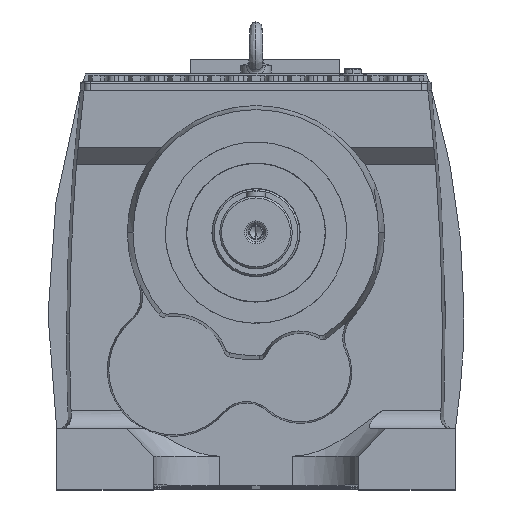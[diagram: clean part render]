
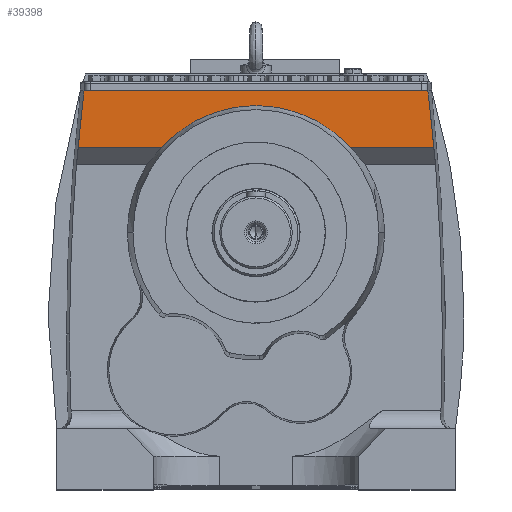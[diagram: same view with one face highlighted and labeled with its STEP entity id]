
A CAD part, top view. The second image highlights one B-rep face of the part: STEP entity #39398.
In plain terms, the highlighted planar face has unit normal (0, 0, 1).
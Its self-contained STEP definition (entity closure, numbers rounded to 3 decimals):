
#4464 = EDGE_LOOP ( 'NONE', ( #69432, #69428, #69461, #69435, #53418, #69591 ) ) ;
#17180 = CIRCLE ( 'NONE', #31205, 210.55 ) ;
#23124 = DIRECTION ( 'NONE',  ( 0., 0., -1. ) ) ;
#23146 = CARTESIAN_POINT ( 'NONE',  ( 0., 0., 258.5 ) ) ;
#23147 = DIRECTION ( 'NONE',  ( -1., 0., 0. ) ) ;
#26803 = VERTEX_POINT ( 'NONE', #80130 ) ;
#26856 = VERTEX_POINT ( 'NONE', #80320 ) ;
#28121 = EDGE_CURVE ( 'NONE', #26803, #48719, #79328, .T. ) ;
#28138 = EDGE_CURVE ( 'NONE', #48539, #26856, #59554, .T. ) ;
#28387 = EDGE_CURVE ( 'NONE', #26803, #50025, #60071, .T. ) ;
#28417 = EDGE_CURVE ( 'NONE', #26856, #49053, #60154, .T. ) ;
#28429 = EDGE_CURVE ( 'NONE', #49053, #50025, #60092, .T. ) ;
#31205 = AXIS2_PLACEMENT_3D ( 'NONE', #23146, #23124, #23147 ) ;
#39398 = ADVANCED_FACE ( 'NONE', ( #59358 ), #60369, .T. ) ;
#48539 = VERTEX_POINT ( 'NONE', #83711 ) ;
#48719 = VERTEX_POINT ( 'NONE', #83733 ) ;
#49053 = VERTEX_POINT ( 'NONE', #83798 ) ;
#50025 = VERTEX_POINT ( 'NONE', #90143 ) ;
#53418 = ORIENTED_EDGE ( 'NONE', *, *, #28121, .T. ) ;
#56516 = CARTESIAN_POINT ( 'NONE',  ( -380.272, 235., 258.5 ) ) ;
#56523 = DIRECTION ( 'NONE',  ( -1., 0., 0. ) ) ;
#56875 = CARTESIAN_POINT ( 'NONE',  ( -3186.324, 140.733, 258.5 ) ) ;
#56880 = DIRECTION ( 'NONE',  ( 1., 0., 0. ) ) ;
#56899 = CARTESIAN_POINT ( 'NONE',  ( -3186.324, 140.733, 258.5 ) ) ;
#56913 = DIRECTION ( 'NONE',  ( 1., 0., 0. ) ) ;
#57494 = DIRECTION ( 'NONE',  ( 0., 0., -1. ) ) ;
#57504 = CARTESIAN_POINT ( 'NONE',  ( 3186.324, -167.302, 258.5 ) ) ;
#57523 = DIRECTION ( 'NONE',  ( -1., 0., 0. ) ) ;
#57581 = DIRECTION ( 'NONE',  ( -1., 0., 0. ) ) ;
#57586 = DIRECTION ( 'NONE',  ( 0., 0., 1. ) ) ;
#57603 = CARTESIAN_POINT ( 'NONE',  ( -3186.324, -167.302, 258.5 ) ) ;
#59358 = FACE_OUTER_BOUND ( 'NONE', #4464, .T. ) ;
#59554 = LINE ( 'NONE', #56899, #59577 ) ;
#59577 = VECTOR ( 'NONE', #56913, 1000. ) ;
#60071 = CIRCLE ( 'NONE', #82968, 3494.174 ) ;
#60092 = LINE ( 'NONE', #56516, #60121 ) ;
#60121 = VECTOR ( 'NONE', #56523, 1000. ) ;
#60154 = CIRCLE ( 'NONE', #82971, 3494.174 ) ;
#60288 = DIRECTION ( 'NONE',  ( 1., 0., 0. ) ) ;
#60334 = DIRECTION ( 'NONE',  ( 0., 0., 1. ) ) ;
#60361 = CARTESIAN_POINT ( 'NONE',  ( -3186.324, -167.302, 258.5 ) ) ;
#60369 = PLANE ( 'NONE',  #83647 ) ;
#69428 = ORIENTED_EDGE ( 'NONE', *, *, #28417, .T. ) ;
#69432 = ORIENTED_EDGE ( 'NONE', *, *, #28138, .T. ) ;
#69435 = ORIENTED_EDGE ( 'NONE', *, *, #28387, .F. ) ;
#69461 = ORIENTED_EDGE ( 'NONE', *, *, #28429, .T. ) ;
#69591 = ORIENTED_EDGE ( 'NONE', *, *, #88192, .T. ) ;
#78129 = VECTOR ( 'NONE', #56880, 1000. ) ;
#79328 = LINE ( 'NONE', #56875, #78129 ) ;
#80130 = CARTESIAN_POINT ( 'NONE',  ( -294.246, 140.733, 258.5 ) ) ;
#80320 = CARTESIAN_POINT ( 'NONE',  ( 294.246, 140.733, 258.5 ) ) ;
#82968 = AXIS2_PLACEMENT_3D ( 'NONE', #57504, #57494, #57523 ) ;
#82971 = AXIS2_PLACEMENT_3D ( 'NONE', #57603, #57586, #57581 ) ;
#83647 = AXIS2_PLACEMENT_3D ( 'NONE', #60361, #60334, #60288 ) ;
#83711 = CARTESIAN_POINT ( 'NONE',  ( 156.607, 140.733, 258.5 ) ) ;
#83733 = CARTESIAN_POINT ( 'NONE',  ( -156.607, 140.733, 258.5 ) ) ;
#83798 = CARTESIAN_POINT ( 'NONE',  ( 284.613, 235., 258.5 ) ) ;
#88192 = EDGE_CURVE ( 'NONE', #48719, #48539, #17180, .T. ) ;
#90143 = CARTESIAN_POINT ( 'NONE',  ( -284.613, 235., 258.5 ) ) ;
